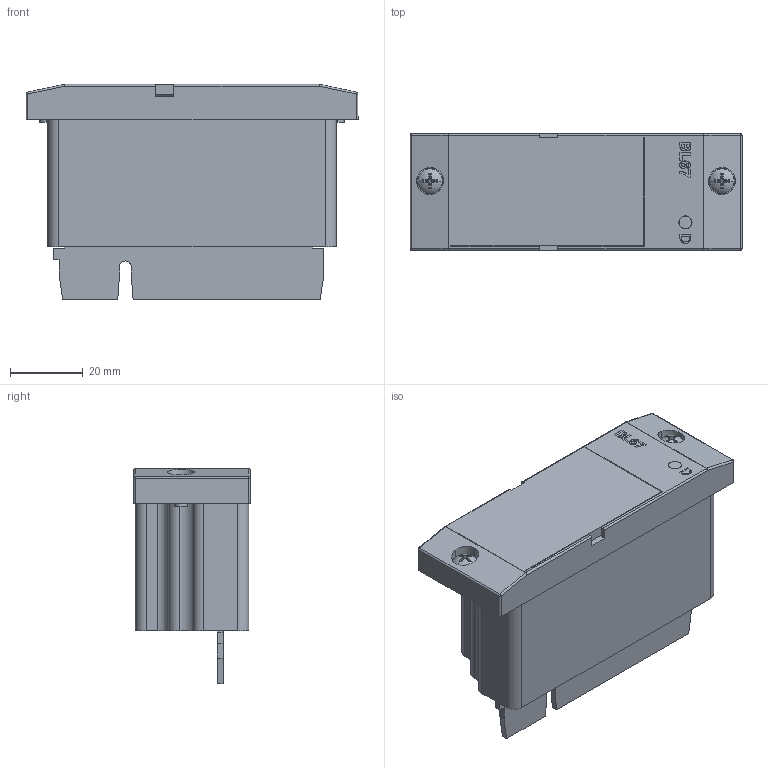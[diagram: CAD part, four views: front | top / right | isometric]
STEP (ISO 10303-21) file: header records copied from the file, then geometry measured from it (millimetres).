
FILE_DESCRIPTION (( 'STEP AP203' ), '1' );
FILE_NAME ('bl67-cover.step', '2014-11-26T17:10:43', ( 'Turck User' ), ( '' ), 'SwSTEP 2.0', 'SolidWorks 2014', '' );
FILE_SCHEMA (( 'CONFIG_CONTROL_DESIGN' ));
Length unit declared in the file: millimetre
Products named in the file (2): bl67-cover
Bounding box: 91 x 32 x 59.01 mm (x, y, z)
Volume: 42758.1 mm3; surface area: 30689 mm2
Topology: 1 solids, 1 shells, 294 faces, 810 edges, 522 vertices
Faces by surface type: plane 139, cylinder 69, cone 34, bspline 26, torus 14, sphere 12
Entity records: 10074 total; most frequent: CARTESIAN_POINT 2690, ORIENTED_EDGE 1596, DIRECTION 1387, EDGE_CURVE 798, VERTEX_POINT 522, AXIS2_PLACEMENT_3D 476, LINE 435, VECTOR 435
